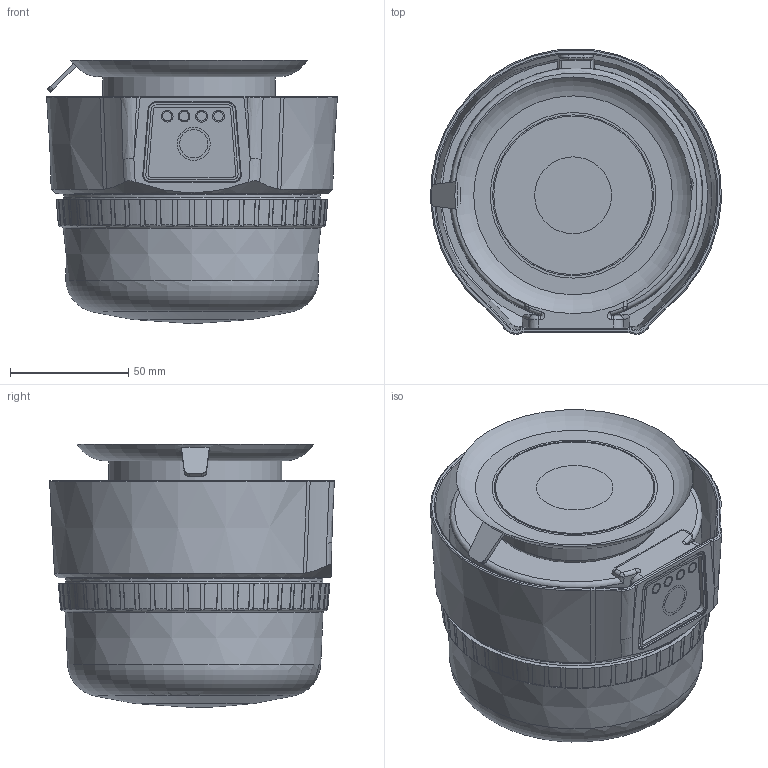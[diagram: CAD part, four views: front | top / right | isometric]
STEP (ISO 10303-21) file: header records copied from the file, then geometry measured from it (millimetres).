
FILE_DESCRIPTION(/* description */ (''),/* implementation_level */ '2;1');
FILE_NAME(/* name */ 'C:/Users/Manuel_Lenovo/Dropbox/eCommerce/Produktdetails/3D_Daten/SUMBEX/SM812L/XR20_ECO_Akku.step',/* time_stamp */ '2020-09-16T15:54:44+02:00',/* author */ (''),/* organization */ (''),/* preprocessor_version */ 'ST-DEVELOPER v18.1',/* originating_system */ 'Autodesk Translation Framework v9.3.0.1241',/* authorisation */ '');
FILE_SCHEMA (('AUTOMOTIVE_DESIGN { 1 0 10303 214 3 1 1 }'));
Length unit declared in the file: millimetre
Products named in the file (1): SM812LC
Bounding box: 122.85 x 120.27 x 111.2 mm (x, y, z)
Volume: 209936.7 mm3; surface area: 215170.7 mm2
Topology: 13 solids, 13 shells, 2135 faces, 5306 edges, 3261 vertices
Faces by surface type: bspline 1183, plane 628, cone 160, cylinder 140, torus 21, sphere 3
Full cylindrical faces by diameter (mm): 2 x1, 2.6 x8, 4 x4, 4.008 x1, 5 x4, 6.006 x1, 7 x1, 10.02 x1, 12 x1, 14 x1, 32.472 x1, 33 x1, 47 x1, 49.799 x1, 50 x1, 52 x1, 66 x1, 67 x2, 68 x1, 70 x2, 73 x1
Entity records: 160974 total; most frequent: CARTESIAN_POINT 118208, ORIENTED_EDGE 10600, DIRECTION 6445, EDGE_CURVE 5300, VERTEX_POINT 3261, AXIS2_PLACEMENT_3D 2390, EDGE_LOOP 2244, B_SPLINE_CURVE_WITH_KNOTS 2173
